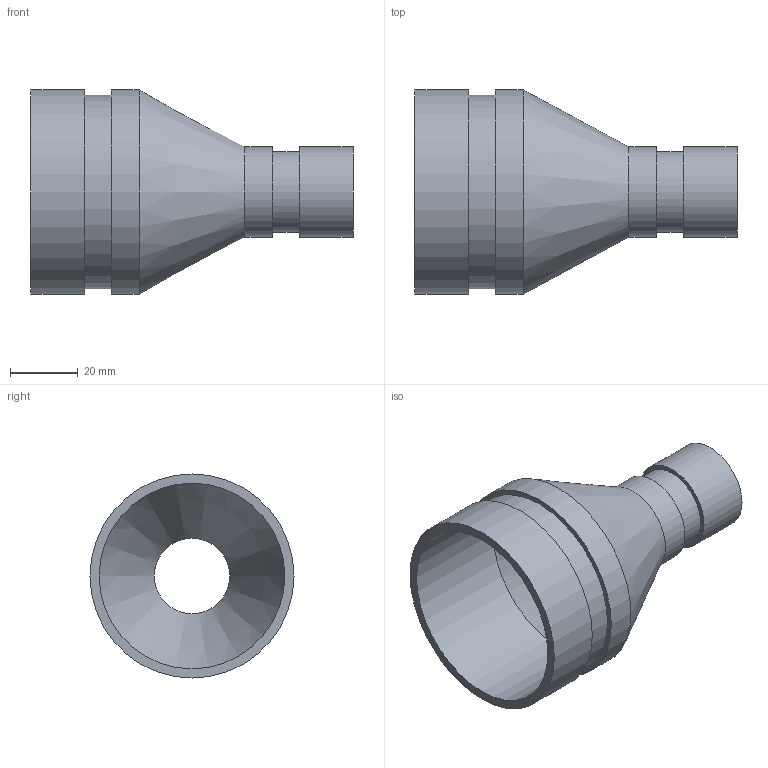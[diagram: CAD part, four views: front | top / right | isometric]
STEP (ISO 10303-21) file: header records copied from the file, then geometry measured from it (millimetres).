
FILE_DESCRIPTION(/* description */ ('VIC REDUCER CONCENTRIC No 450-SS','CAx-IF Rec.Pracs.---Representation and Presentation of Product Manufacturing Information (PMI)---4.0---2014-10-13'),/* implementation_level */ '2;1');
FILE_NAME(/* name */ 'C:\Users\kkamble\AppData\Roaming\Autodesk\ApplicationPlugins\Back Up\Victaulic_SS-OGS_Reducer Concentric_Sched 10S_No 450 SS (OGS)\Victaulic_SS-OGS_Reducer Concentric_Sched 10S_No 450 SS (OGS)_02.0x0.75 (50x20).stp',/* time_stamp */ '2020-09-08T12:31:57+05:00',/* author */ ('CORINNE GRAY'),/* organization */ ('Victaulic'),/* preprocessor_version */ 'ST-DEVELOPER v17.2',/* originating_system */ 'Autodesk Inventor 2019',/* authorisation */ '');
FILE_SCHEMA (('AP242_MANAGED_MODEL_BASED_3D_ENGINEERING_MIM_LF { 1 0 10303 442 1 1 4 }'));
Length unit declared in the file: inch
Products named in the file (1): 450 SS-02.0x0.75
Bounding box: 95.25 x 60.33 x 60.33 mm (x, y, z)
Volume: 27911.8 mm3; surface area: 26952.6 mm2
Topology: 1 solids, 1 shells, 16 faces, 42 edges, 32 vertices
Faces by surface type: cylinder 8, plane 6, cone 2
Full cylindrical faces by diameter (mm): 22.352 x1, 23.825 x1, 26.67 x2, 54.864 x1, 57.15 x1, 60.325 x2
Entity records: 686 total; most frequent: DIRECTION 134, CARTESIAN_POINT 108, ORIENTED_EDGE 84, AXIS2_PLACEMENT_3D 62, EDGE_CURVE 42, CIRCLE 32, VERTEX_POINT 32, EDGE_LOOP 22
